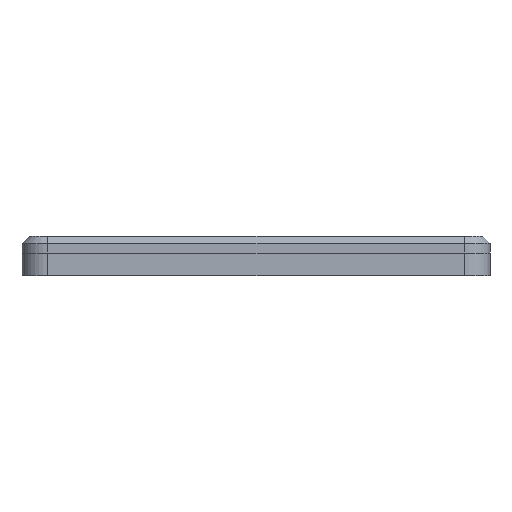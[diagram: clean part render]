
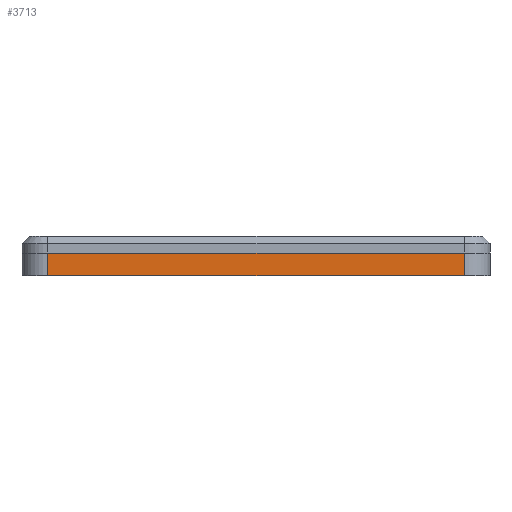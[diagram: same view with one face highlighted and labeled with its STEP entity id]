
A CAD part, left-side view. The second image highlights one B-rep face of the part: STEP entity #3713.
In plain terms, the highlighted planar face has unit normal (-1, 0, 0).
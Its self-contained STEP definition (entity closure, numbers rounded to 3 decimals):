
#538=FACE_OUTER_BOUND('',#829,.T.);
#829=EDGE_LOOP('',(#3340,#3341,#3342,#3343));
#1099=LINE('',#5951,#1449);
#1140=LINE('',#6064,#1490);
#1182=LINE('',#6220,#1532);
#1183=LINE('',#6221,#1533);
#1449=VECTOR('',#4871,10.);
#1490=VECTOR('',#4988,10.);
#1532=VECTOR('',#5166,10.);
#1533=VECTOR('',#5167,10.);
#1776=VERTEX_POINT('',#5936);
#1783=VERTEX_POINT('',#5949);
#1816=VERTEX_POINT('',#6061);
#1817=VERTEX_POINT('',#6063);
#2229=EDGE_CURVE('',#1783,#1776,#1099,.T.);
#2285=EDGE_CURVE('',#1816,#1817,#1140,.T.);
#2360=EDGE_CURVE('',#1776,#1816,#1182,.T.);
#2361=EDGE_CURVE('',#1817,#1783,#1183,.T.);
#3340=ORIENTED_EDGE('',*,*,#2360,.F.);
#3341=ORIENTED_EDGE('',*,*,#2229,.F.);
#3342=ORIENTED_EDGE('',*,*,#2361,.F.);
#3343=ORIENTED_EDGE('',*,*,#2285,.F.);
#3499=PLANE('',#4086);
#3713=ADVANCED_FACE('',(#538),#3499,.T.);
#4086=AXIS2_PLACEMENT_3D('',#6219,#5164,#5165);
#4871=DIRECTION('',(0.,1.,0.));
#4988=DIRECTION('',(0.,-1.,0.));
#5164=DIRECTION('center_axis',(-1.,0.,0.));
#5165=DIRECTION('ref_axis',(0.,1.,0.));
#5166=DIRECTION('',(0.,0.,1.));
#5167=DIRECTION('',(0.,0.,-1.));
#5936=CARTESIAN_POINT('',(-109.,53.15,-3.2));
#5949=CARTESIAN_POINT('',(-109.,-59.25,-3.2));
#5951=CARTESIAN_POINT('',(-109.,-59.25,-3.2));
#6061=CARTESIAN_POINT('',(-109.,53.15,3.));
#6063=CARTESIAN_POINT('',(-109.,-59.25,3.));
#6064=CARTESIAN_POINT('',(-109.,25.05,3.));
#6219=CARTESIAN_POINT('Origin',(-109.,-59.25,0.));
#6220=CARTESIAN_POINT('',(-109.,53.15,0.));
#6221=CARTESIAN_POINT('',(-109.,-59.25,-2.2));
